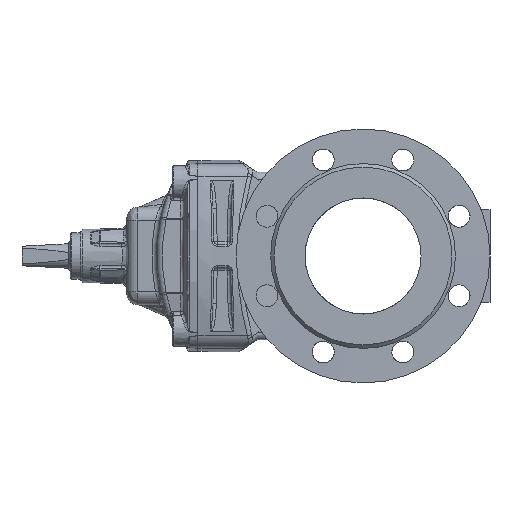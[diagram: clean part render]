
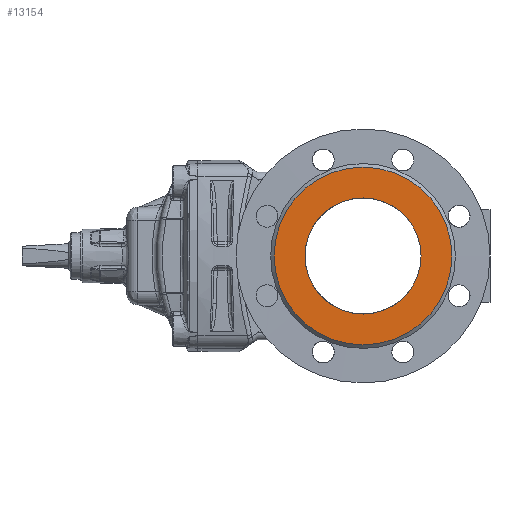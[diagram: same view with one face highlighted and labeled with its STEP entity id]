
A CAD part, front view. The second image highlights one B-rep face of the part: STEP entity #13154.
In plain terms, the highlighted planar face has unit normal (0, -1, 0).
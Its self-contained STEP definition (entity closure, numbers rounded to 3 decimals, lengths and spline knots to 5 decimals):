
#1510=FACE_BOUND('',#3140,.T.);
#2266=FACE_OUTER_BOUND('',#3139,.T.);
#3139=EDGE_LOOP('',(#11801));
#3140=EDGE_LOOP('',(#11802));
#5062=CIRCLE('',#14858,0.077);
#5063=CIRCLE('',#14859,0.05025);
#6231=VERTEX_POINT('',#43768);
#6232=VERTEX_POINT('',#43770);
#8124=EDGE_CURVE('',#6231,#6231,#5062,.T.);
#8125=EDGE_CURVE('',#6232,#6232,#5063,.T.);
#11801=ORIENTED_EDGE('',*,*,#8124,.F.);
#11802=ORIENTED_EDGE('',*,*,#8125,.T.);
#12403=PLANE('',#14857);
#13154=ADVANCED_FACE('',(#2266,#1510),#12403,.F.);
#14857=AXIS2_PLACEMENT_3D('',#43767,#18053,#18054);
#14858=AXIS2_PLACEMENT_3D('',#43769,#18055,#18056);
#14859=AXIS2_PLACEMENT_3D('',#43771,#18057,#18058);
#18053=DIRECTION('center_axis',(0.,1.,0.));
#18054=DIRECTION('ref_axis',(0.,0.,1.));
#18055=DIRECTION('center_axis',(0.,1.,0.));
#18056=DIRECTION('ref_axis',(0.,0.,1.));
#18057=DIRECTION('center_axis',(0.,1.,0.));
#18058=DIRECTION('ref_axis',(0.,0.,1.));
#43767=CARTESIAN_POINT('Origin',(0.,-0.095,-0.112));
#43768=CARTESIAN_POINT('',(0.,-0.095,-0.035));
#43769=CARTESIAN_POINT('Origin',(0.,-0.095,-0.112));
#43770=CARTESIAN_POINT('',(0.,-0.095,-0.16225));
#43771=CARTESIAN_POINT('Origin',(0.,-0.095,-0.112));
